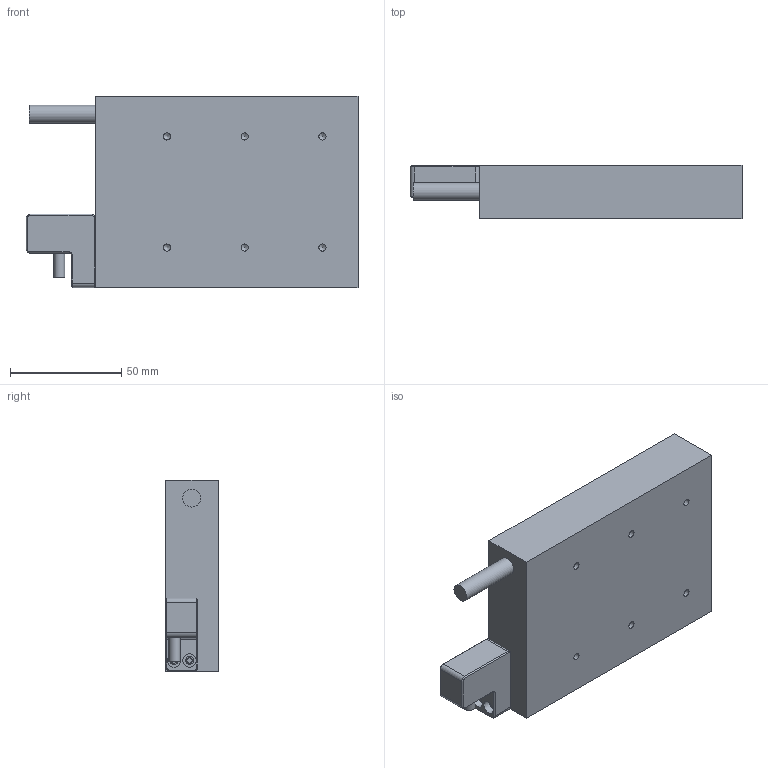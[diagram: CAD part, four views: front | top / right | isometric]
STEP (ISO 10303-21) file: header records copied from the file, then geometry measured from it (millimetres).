
FILE_DESCRIPTION( ( 'Unknown' ), '1' );
FILE_NAME( 'C:/Users/michael/Desktop/DPD86模型（业务用）/DPD86C2.stp', 'Unknown', ( 'Unknown' ), ( 'Unknown' ), 'PSStep 17.0.49', 'Unknown', ' ' );
FILE_SCHEMA( ( 'AUTOMOTIVE_DESIGN { 1 0 10303 214 1 1 1 1 }' ) );
Length unit declared in the file: millimetre
Products named in the file (3): Assem1; DPD86; 霍尔支架
Assembly tree (2 placements, depth 2):
  Assem1
    DPD86
    霍尔支架
Bounding box: 149.4 x 23.7 x 86 mm (x, y, z)
Volume: 251815.1 mm3; surface area: 34953.2 mm2
Topology: 2 solids, 3 shells, 77 faces, 170 edges, 105 vertices
Faces by surface type: plane 34, cylinder 23, cone 20
Full cylindrical faces by diameter (mm): 1.567 x2, 2.459 x2, 3.242 x6, 3.6 x2, 5 x1, 6 x2, 6.2 x1, 8 x1
Entity records: 2546 total; most frequent: DIRECTION 348, CARTESIAN_POINT 307, ORIENTED_EDGE 260, AXIS2_PLACEMENT_3D 138, EDGE_CURVE 130, EDGE_LOOP 112, VERTEX_POINT 97, FACE_OUTER_BOUND 94
